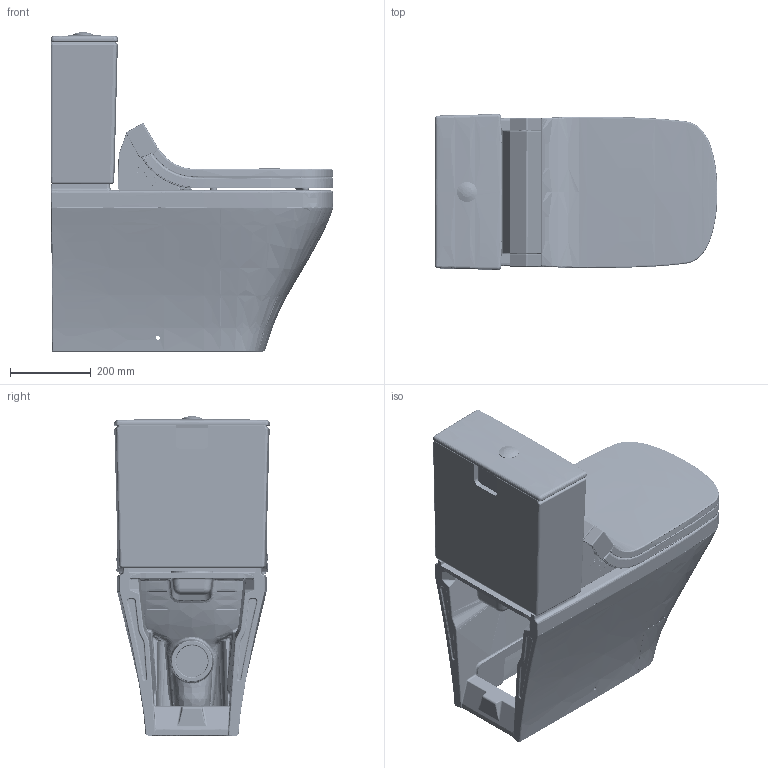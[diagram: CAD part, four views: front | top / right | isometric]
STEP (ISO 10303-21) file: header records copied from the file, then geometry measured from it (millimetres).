
FILE_DESCRIPTION((''),'2;1');
FILE_NAME('C:\Users\Administrator\Desktop\NEWS 2014 Step 1\SensoWash_e mit versch. Serien\3d\stp\215659_610200_e.stp','2014-11-13T08:58:32',('Administrator'),(''),'Autodesk Inventor 2011','Autodesk Inventor 2011','');
FILE_SCHEMA(('CONFIG_CONTROL_DESIGN'));
Length unit declared in the file: millimetre
Products named in the file (17): 215659_610200_e; 215659; 610200_e; SEAT_ASM; 1F221-A0-01; 1F221-B0-01; 1F218-B0-01; COVERS; BODY-CASE; 1F219-01-01; INFRARED-LEFT; BUTTON-MEMBRANE; LID-CUSHION; PLATE1; PLATE2; 093500; SPK Taster Durastyle
Assembly tree (20 placements, depth 4):
  215659_610200_e
    215659
    610200_e
      SEAT_ASM
        1F221-A0-01
        1F221-B0-01
        1F218-B0-01
      COVERS
      BODY-CASE
      1F219-01-01
      INFRARED-LEFT
      BUTTON-MEMBRANE
      LID-CUSHION  x2
      1F218-B0-01  x3
      PLATE1
      PLATE2
    093500
    SPK Taster Durastyle
Bounding box: 700.82 x 387.03 x 792.49 mm (x, y, z)
Volume: 37598341.6 mm3; surface area: 4136963.1 mm2
Topology: 21 solids, 22 shells, 7169 faces, 18112 edges, 11060 vertices
Faces by surface type: bspline 2912, plane 2289, cylinder 1265, torus 297, cone 291, sphere 115
Full cylindrical faces by diameter (mm): 2 x1, 2.4 x2, 2.5 x1, 2.6 x3, 3.2 x2, 3.8 x1, 4 x6, 4.5 x1, 5 x3, 7.5 x3, 8 x9, 9 x2, 10 x7, 15 x2, 15.2 x2, 18 x1, 19 x1, 20 x1, 28.2 x1, 40 x2, 50 x1, 63 x1
Entity records: 520812 total; most frequent: CARTESIAN_POINT 364040, ORIENTED_EDGE 35596, DIRECTION 25883, EDGE_CURVE 17798, VERTEX_POINT 10957, AXIS2_PLACEMENT_3D 9452, EDGE_LOOP 7487, FACE_OUTER_BOUND 7132
